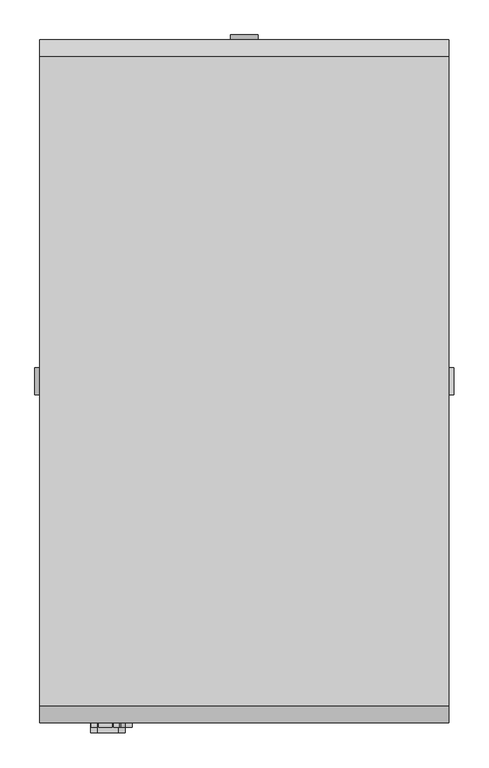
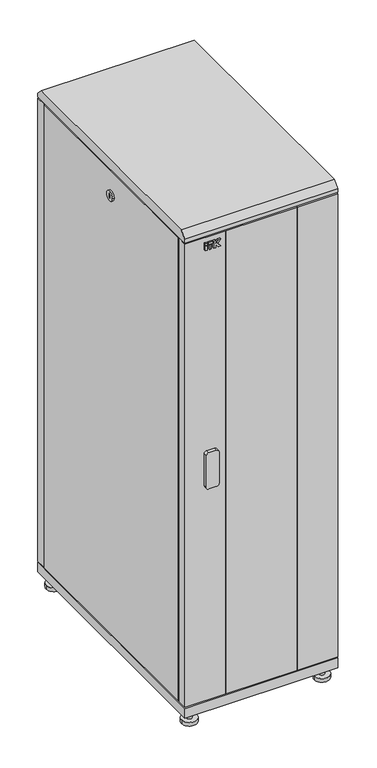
"""IFC4 building model written with IfcOpenShell, lengths in millimetres: proxy geometry, Шкафы ITK серия S_G : LS35-42U61-G-1."""

from ifc_helpers import new_model, si_unit, point, frame, frame_2d, origin, origin_with_axes, place, context, project, spatial, polyline, circle_curve, trimmed, segment, composite_curve, outline, extrude, source, transform, mapped, element, save


def electrical_fixtures_dada5d97(model_context):
    return source(origin(), model_context, "Body", "SweptSolid", [
        extrude(outline(polyline([(-215.9746193, -507.0), (-224.197592, -507.0), (-224.197592, -500.0), (-215.9746193, -500.0), (-215.9746193, -507.0)])), frame((0.0, 0.0, 1965.0), z_axis=(0.0, 0.0, 1.0), x_axis=(1.0, 0.0, 0.0)), (0.0, 0.0, 1.0), 18.8087618),
        extrude(outline(polyline([(-199.9605777, -507.0), (-207.7053315, -507.0), (-207.7053315, -500.0), (-199.9605777, -500.0), (-199.9605777, -507.0)])), frame((0.0, 0.0, 1965.0), z_axis=(0.0, 0.0, 1.0), x_axis=(1.0, 0.0, 0.0)), (0.0, 0.0, 1.0), 18.8087618),
        extrude(outline(polyline([(-215.9746193, -507.0), (-224.197592, -507.0), (-224.197592, -500.0), (-215.9746193, -500.0), (-215.9746193, -507.0)])), frame((0.0, 0.0, 1986.4305892), z_axis=(0.0, 0.0, 1.0), x_axis=(1.0, 0.0, 0.0)), (0.0, 0.0, 1.0), 7.9794747),
        extrude(outline(polyline([(1965.0, -191.5184175), (1965.0, -183.7669278), (1976.0271455, -183.7669278), (1976.0271455, -180.8031229), (1965.0, -173.6420108), (1965.0, -164.197592), (1979.7278745, -174.8980192), (1994.410064, -164.197592), (1994.410064, -173.6420108), (1983.3829184, -180.8031229), (1983.3829184, -183.7669278), (1994.410064, -183.7669278), (1994.410064, -191.5184175), (1965.0, -191.5184175)])), frame((0.0, -507.0, 0.0), z_axis=(0.0, 1.0, 0.0), x_axis=(0.0, 0.0, 1.0)), (0.0, 0.0, 1.0), 7.0),
        extrude(outline(polyline([(-194.0851324, -507.0), (-213.5807768, -507.0), (-213.5807768, -500.0), (-194.0851324, -500.0), (-194.0851324, -507.0)])), frame((0.0, 0.0, 1986.4305892), z_axis=(0.0, 0.0, 1.0), x_axis=(1.0, 0.0, 0.0)), (0.0, 0.0, 1.0), 7.9794747),
        extrude(outline(composite_curve([segment(polyline([(1130.0, -185.0), (1130.0, -215.0)]), True, "CONTINUOUS"), segment(trimmed(circle_curve(frame_2d((1120.0, -215.0)), 10.0), [point((1130.0, -215.0))], [point((1120.0, -225.0))], False, "CARTESIAN"), True, "CONTINUOUS"), segment(polyline([(1120.0, -225.0), (990.0, -225.0)]), True, "CONTINUOUS"), segment(trimmed(circle_curve(frame_2d((990.0, -215.0)), 10.0), [point((990.0, -225.0))], [point((980.0, -215.0))], False, "CARTESIAN"), True, "CONTINUOUS"), segment(polyline([(980.0, -215.0), (980.0, -185.0)]), True, "CONTINUOUS"), segment(trimmed(circle_curve(frame_2d((990.0, -185.0)), 10.0), [point((980.0, -185.0))], [point((990.0, -175.0))], False, "CARTESIAN"), True, "CONTINUOUS"), segment(polyline([(990.0, -175.0), (1120.0, -175.0)]), True, "CONTINUOUS"), segment(trimmed(circle_curve(frame_2d((1120.0, -185.0)), 10.0), [point((1120.0, -175.0))], [point((1130.0, -185.0))], False, "CARTESIAN"), True, "CONTINUOUS")], self_intersect=False)), frame((0.0, -515.0, 0.0), z_axis=(0.0, 1.0, 0.0), x_axis=(0.0, 0.0, 1.0)), (0.0, 0.0, 1.0), 15.0),
        extrude(outline(polyline([(140.0, -480.0), (140.0, -500.0), (-140.0, -500.0), (-140.0, -480.0), (140.0, -480.0)])), frame((0.0, 0.0, 95.0), z_axis=(0.0, 0.0, 1.0), x_axis=(1.0, 0.0, 0.0)), (0.0, 0.0, 1.0), 1920.0),
        extrude(outline(polyline([(140.0, -500.0), (140.0, -480.0), (260.0, -480.0), (260.0, -445.0), (270.0, -445.0), (270.0, -460.0), (300.0, -460.0), (300.0, -500.0), (140.0, -500.0)])), frame((0.0, 0.0, 95.0), z_axis=(0.0, 0.0, 1.0), x_axis=(1.0, 0.0, 0.0)), (0.0, 0.0, 1.0), 1920.0),
        extrude(outline(polyline([(-140.0, -500.0), (-300.0, -500.0), (-300.0, -460.0), (-270.0, -460.0), (-270.0, -445.0), (-260.0, -445.0), (-260.0, -480.0), (-140.0, -480.0), (-140.0, -500.0)])), frame((0.0, 0.0, 95.0), z_axis=(0.0, 0.0, 1.0), x_axis=(1.0, 0.0, 0.0)), (0.0, 0.0, 1.0), 1920.0),
        extrude(outline(composite_curve([segment(trimmed(circle_curve(frame_2d((-260.0, 460.0)), 10.0), [point((-250.0, 460.0))], [point((-270.0, 460.0))], False, "CARTESIAN"), True, "CONTINUOUS"), segment(trimmed(circle_curve(frame_2d((-260.0, 460.0)), 10.0), [point((-270.0, 460.0))], [point((-250.0, 460.0))], False, "CARTESIAN"), True, "CONTINUOUS")], self_intersect=False)), frame((0.0, 0.0, 15.0), z_axis=(0.0, 0.0, 1.0), x_axis=(1.0, 0.0, 0.0)), (0.0, 0.0, 1.0), 35.0),
        extrude(outline(composite_curve([segment(trimmed(circle_curve(frame_2d((260.0, 460.0)), 10.0), [point((270.0, 460.0))], [point((250.0, 460.0))], False, "CARTESIAN"), True, "CONTINUOUS"), segment(trimmed(circle_curve(frame_2d((260.0, 460.0)), 10.0), [point((250.0, 460.0))], [point((270.0, 460.0))], False, "CARTESIAN"), True, "CONTINUOUS")], self_intersect=False)), frame((0.0, 0.0, 15.0), z_axis=(0.0, 0.0, 1.0), x_axis=(1.0, 0.0, 0.0)), (0.0, 0.0, 1.0), 35.0),
        extrude(outline(composite_curve([segment(trimmed(circle_curve(frame_2d((-260.0, -460.0)), 10.0), [point((-250.0, -460.0))], [point((-270.0, -460.0))], False, "CARTESIAN"), True, "CONTINUOUS"), segment(trimmed(circle_curve(frame_2d((-260.0, -460.0)), 10.0), [point((-270.0, -460.0))], [point((-250.0, -460.0))], False, "CARTESIAN"), True, "CONTINUOUS")], self_intersect=False)), frame((0.0, 0.0, 15.0), z_axis=(0.0, 0.0, 1.0), x_axis=(1.0, 0.0, 0.0)), (0.0, 0.0, 1.0), 35.0),
        extrude(outline(composite_curve([segment(trimmed(circle_curve(frame_2d((260.0, -460.0)), 10.0), [point((270.0, -460.0))], [point((250.0, -460.0))], False, "CARTESIAN"), True, "CONTINUOUS"), segment(trimmed(circle_curve(frame_2d((260.0, -460.0)), 10.0), [point((250.0, -460.0))], [point((270.0, -460.0))], False, "CARTESIAN"), True, "CONTINUOUS")], self_intersect=False)), frame((0.0, 0.0, 15.0), z_axis=(0.0, 0.0, 1.0), x_axis=(1.0, 0.0, 0.0)), (0.0, 0.0, 1.0), 35.0),
        extrude(outline(composite_curve([segment(trimmed(circle_curve(frame_2d((-260.0, 460.0)), 30.0), [point((-230.0, 460.0))], [point((-290.0, 460.0))], False, "CARTESIAN"), True, "CONTINUOUS"), segment(trimmed(circle_curve(frame_2d((-260.0, 460.0)), 30.0), [point((-290.0, 460.0))], [point((-230.0, 460.0))], False, "CARTESIAN"), True, "CONTINUOUS")], self_intersect=False)), origin_with_axes(), (0.0, 0.0, 1.0), 15.0),
        extrude(outline(composite_curve([segment(trimmed(circle_curve(frame_2d((260.0, 460.0)), 30.0), [point((290.0, 460.0))], [point((230.0, 460.0))], False, "CARTESIAN"), True, "CONTINUOUS"), segment(trimmed(circle_curve(frame_2d((260.0, 460.0)), 30.0), [point((230.0, 460.0))], [point((290.0, 460.0))], False, "CARTESIAN"), True, "CONTINUOUS")], self_intersect=False)), origin_with_axes(), (0.0, 0.0, 1.0), 15.0),
        extrude(outline(composite_curve([segment(trimmed(circle_curve(frame_2d((-260.0, -460.0)), 30.0), [point((-230.0, -460.0))], [point((-290.0, -460.0))], False, "CARTESIAN"), True, "CONTINUOUS"), segment(trimmed(circle_curve(frame_2d((-260.0, -460.0)), 30.0), [point((-290.0, -460.0))], [point((-230.0, -460.0))], False, "CARTESIAN"), True, "CONTINUOUS")], self_intersect=False)), origin_with_axes(), (0.0, 0.0, 1.0), 15.0),
        extrude(outline(composite_curve([segment(trimmed(circle_curve(frame_2d((260.0, -460.0)), 30.0), [point((290.0, -460.0))], [point((230.0, -460.0))], False, "CARTESIAN"), True, "CONTINUOUS"), segment(trimmed(circle_curve(frame_2d((260.0, -460.0)), 30.0), [point((230.0, -460.0))], [point((290.0, -460.0))], False, "CARTESIAN"), True, "CONTINUOUS")], self_intersect=False)), origin_with_axes(), (0.0, 0.0, 1.0), 15.0),
        extrude(outline(polyline([(-475.0, 2060.0), (475.0, 2060.0), (500.0, 2035.0), (500.0, 2020.0), (-500.0, 2020.0), (-500.0, 2035.0), (-475.0, 2060.0)])), frame((-300.0, 0.0, 0.0), z_axis=(1.0, 0.0, 0.0), x_axis=(0.0, 1.0, 0.0)), (0.0, 0.0, 1.0), 600.0),
        extrude(outline(polyline([(260.0, 460.0), (260.0, 445.0), (290.0, 445.0), (290.0, -445.0), (260.0, -445.0), (260.0, -460.0), (245.0, -460.0), (245.0, -480.0), (-245.0, -480.0), (-245.0, -460.0), (-260.0, -460.0), (-260.0, -445.0), (-290.0, -445.0), (-290.0, 445.0), (-260.0, 445.0), (-260.0, 460.0), (-245.0, 460.0), (-245.0, 490.0), (245.0, 490.0), (245.0, 460.0), (260.0, 460.0)])), frame((0.0, 0.0, 90.0), z_axis=(0.0, 0.0, 1.0), x_axis=(1.0, 0.0, 0.0)), (0.0, 0.0, 1.0), 5.0),
        extrude(outline(polyline([(260.0, 460.0), (260.0, 445.0), (290.0, 445.0), (290.0, -445.0), (260.0, -445.0), (260.0, -460.0), (245.0, -460.0), (245.0, -480.0), (-245.0, -480.0), (-245.0, -460.0), (-260.0, -460.0), (-260.0, -445.0), (-290.0, -445.0), (-290.0, 445.0), (-260.0, 445.0), (-260.0, 460.0), (-245.0, 460.0), (-245.0, 490.0), (245.0, 490.0), (245.0, 460.0), (260.0, 460.0)])), frame((0.0, 0.0, 2015.0), z_axis=(0.0, 0.0, 1.0), x_axis=(1.0, 0.0, 0.0)), (0.0, 0.0, 1.0), 5.0),
        extrude(outline(polyline([(300.0, -500.0), (-300.0, -500.0), (-300.0, 500.0), (300.0, 500.0), (300.0, -500.0)])), frame((0.0, 0.0, 50.0), z_axis=(0.0, 0.0, 1.0), x_axis=(1.0, 0.0, 0.0)), (0.0, 0.0, 1.0), 40.0),
        extrude(outline(composite_curve([segment(trimmed(circle_curve(frame_2d((1915.0, 0.0)), 20.0), [point((1915.0, 20.0))], [point((1915.0, -20.0))], False, "CARTESIAN"), True, "CONTINUOUS"), segment(trimmed(circle_curve(frame_2d((1915.0, 0.0)), 20.0), [point((1915.0, -20.0))], [point((1915.0, 20.0))], False, "CARTESIAN"), True, "CONTINUOUS")], self_intersect=False), holes=[polyline([(1906.7814397, -3.0), (1923.2185603, -3.0), (1923.2185603, 3.0), (1906.7814397, 3.0), (1906.7814397, -3.0)])]), frame((0.0, 500.0, 0.0), z_axis=(0.0, 1.0, 0.0), x_axis=(0.0, 0.0, 1.0)), (0.0, 0.0, 1.0), 7.0),
        extrude(outline(polyline([(300.0, 500.0), (300.0, 460.0), (270.0, 460.0), (270.0, 445.0), (260.0, 445.0), (260.0, 490.0), (-260.0, 490.0), (-260.0, 445.0), (-270.0, 445.0), (-270.0, 460.0), (-300.0, 460.0), (-300.0, 500.0), (300.0, 500.0)])), frame((0.0, 0.0, 95.0), z_axis=(0.0, 0.0, 1.0), x_axis=(1.0, 0.0, 0.0)), (0.0, 0.0, 1.0), 1920.0),
        extrude(outline(composite_curve([segment(trimmed(circle_curve(frame_2d((0.0, 1915.0)), 20.0), [point((-20.0, 1915.0))], [point((20.0, 1915.0))], False, "CARTESIAN"), True, "CONTINUOUS"), segment(trimmed(circle_curve(frame_2d((0.0, 1915.0)), 20.0), [point((20.0, 1915.0))], [point((-20.0, 1915.0))], False, "CARTESIAN"), True, "CONTINUOUS")], self_intersect=False), holes=[polyline([(3.0, 1906.7814397), (3.0, 1923.2185603), (-3.0, 1923.2185603), (-3.0, 1906.7814397), (3.0, 1906.7814397)])]), frame((300.0, 0.0, 0.0), z_axis=(1.0, 0.0, 0.0), x_axis=(0.0, 1.0, 0.0)), (0.0, 0.0, 1.0), 7.0),
        extrude(outline(composite_curve([segment(trimmed(circle_curve(frame_2d((0.0, 1915.0)), 20.0), [point((20.0, 1915.0))], [point((-20.0, 1915.0))], False, "CARTESIAN"), True, "CONTINUOUS"), segment(trimmed(circle_curve(frame_2d((0.0, 1915.0)), 20.0), [point((-20.0, 1915.0))], [point((20.0, 1915.0))], False, "CARTESIAN"), True, "CONTINUOUS")], self_intersect=False), holes=[polyline([(-3.0, 1906.7814397), (3.0, 1906.7814397), (3.0, 1923.2185603), (-3.0, 1923.2185603), (-3.0, 1906.7814397)])]), frame((-307.0, 0.0, 0.0), z_axis=(1.0, 0.0, 0.0), x_axis=(0.0, 1.0, 0.0)), (0.0, 0.0, 1.0), 7.0),
        extrude(outline(polyline([(-270.0, 455.0), (-270.0, 445.0), (-289.9803177, 445.0), (-289.9803177, -445.0), (-269.9803177, -445.0), (-269.9803177, -455.0), (-300.0, -455.0), (-300.0, 455.0), (-270.0, 455.0)])), frame((0.0, 0.0, 95.0), z_axis=(0.0, 0.0, 1.0), x_axis=(1.0, 0.0, 0.0)), (0.0, 0.0, 1.0), 1920.0),
        extrude(outline(polyline([(269.9803177, 455.0), (300.0, 455.0), (300.0, -455.0), (269.9803177, -455.0), (269.9803177, -445.0), (289.9803177, -445.0), (289.9803177, 445.0), (269.9803177, 445.0), (269.9803177, 455.0)])), frame((0.0, 0.0, 95.0), z_axis=(0.0, 0.0, 1.0), x_axis=(1.0, 0.0, 0.0)), (0.0, 0.0, 1.0), 1920.0),
    ])


if __name__ == "__main__":
    model = new_model("IFC4")
    model_context = context("Model", 3, world=origin())
    ifc_project = project(units=[si_unit("LENGTHUNIT", "METRE", prefix="MILLI")], contexts=[model_context])
    site = spatial("IfcSite", under=ifc_project)
    building = spatial("IfcBuilding", under=site)
    placement = place(None, origin())
    electrical_fixtures_shape = electrical_fixtures_dada5d97(model_context)
    element("IfcBuildingElementProxy", 1, Name="Шкафы ITK серия S_G : LS35-42U61-G-1", ObjectType="Шкафы ITK серия S_G : LS35-42U61-G-1", at=placement, inside=building, context=model_context, shape_type="MappedRepresentation", body=[
        mapped(electrical_fixtures_shape, transform((0.0, 0.0, 0.0), x_axis=(1.0, 0.0, 0.0), y_axis=(0.0, 1.0, 0.0), z_axis=(0.0, 0.0, 1.0))),
    ])
    save(model, "model.ifc")
